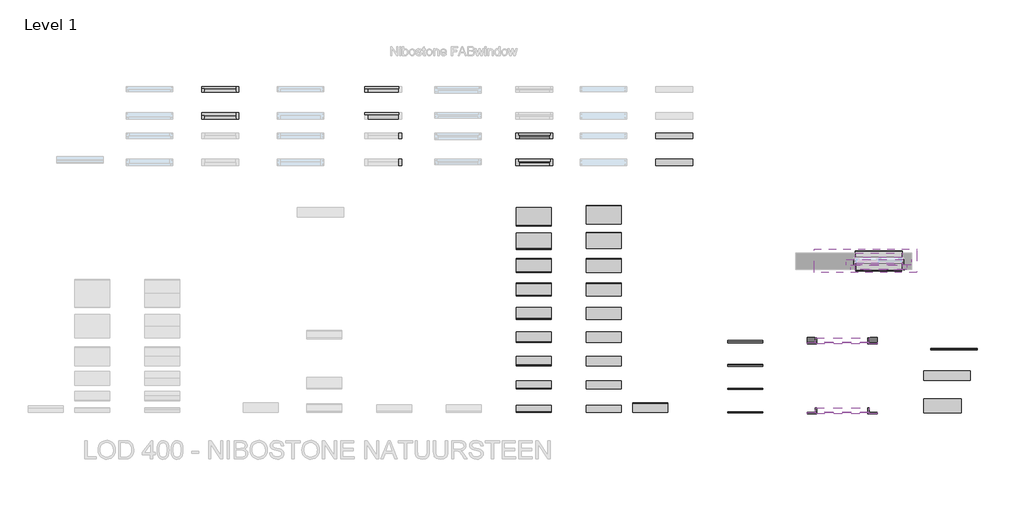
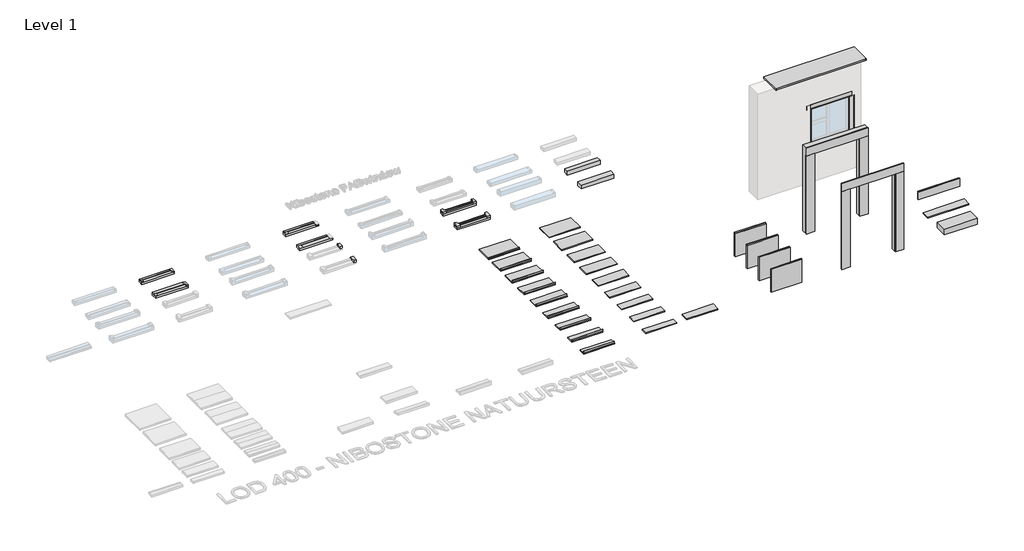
# One storey, part 3 of 4: 70 proxies.
"""IFC4 building model written with IfcOpenShell, lengths in millimetres."""

from ifc_helpers import new_model, si_unit, frame, origin, place, context, project, spatial, polyline, outline, extrude, faceted_brep, transform, mapped, element, save
from components import generic_models_4bea83f5, generic_models_c970b44f, generic_models_d3818979, generic_models_0f2e3a4e, generic_models_bb41b8d3, generic_models_ca184088, proxy_150_mm_c4bdd993, proxy_150_mm_ca923bcc, proxy_175_mm_28cd4d07, proxy_175_mm_1eb8ddfd, proxy_175_mm_35256b22, proxy_175_mm_2a68124a, proxy_200_mm_76491fd2, proxy_200_mm_34eb9fa0, proxy_225_mm_b38ed08b, proxy_225_mm_9ad4d809, proxy_250_mm_6b778dde, proxy_250_mm_bb0ab3bd, proxy_275_mm_4d599cdf, proxy_275_mm_176d9016, proxy_300_mm_cd6bf833, proxy_300_mm_4064e9de, proxy_350_mm_8b86544a, proxy_350_mm_dca82a35, proxy_400_mm_2aad5f86, proxy_400_mm_b8799641, proxy_500_mm_7bc9ffac, boven_94df7e55, links_18fe3aea, rechts_cb2a7235, std_9d51e7c5, std_7226f1d9, std_2bb5f184, std_e55cd7ee, std_7f9111ec, std_fba14e34, std_465226a6, std_f1861b5c, std_f690763c, std_e08fb664, std_f5cab2c8, std_3d7576f2, std_c930b66d

model = new_model("IFC4")

# Units and contexts
model_context = context("Model", 3, world=origin())
ifc_project = project(units=[si_unit("LENGTHUNIT", "METRE", prefix="MILLI")], contexts=[model_context])

# Site, building, storey
site = spatial("IfcSite", under=ifc_project)
building = spatial("IfcBuilding", under=site)
storey = spatial("IfcBuildingStorey", under=building, Name="Level 1", Elevation=0.0)

# Proxies
placement = place(None, origin())
element("IfcBuildingElementProxy", 1, Name="Nibostone : BLOK-114-100", ObjectType="Nibostone : BLOK-114-100", at=placement, inside=storey, context=model_context, shape_type="SweptSolid", body=[
    extrude(outline(polyline([(19500.0, 15886.0), (19500.0, 16000.0), (20293.7366492, 16000.0), (20293.7366492, 15886.0), (19500.0, 15886.0)])), frame((0.0, 0.0, -26.0), z_axis=(0.0, 0.0, 1.0), x_axis=(1.0, 0.0, 0.0)), (0.0, 0.0, 1.0), 100.0),
])
element("IfcBuildingElementProxy", 2, Name="Nibostone : BLOK-139-100", ObjectType="Nibostone : BLOK-139-100", at=placement, inside=storey, context=model_context, shape_type="SweptSolid", body=[
    extrude(outline(polyline([(19500.0, 15301.0), (19500.0, 15440.0), (20293.7366492, 15440.0), (20293.7366492, 15301.0), (19500.0, 15301.0)])), frame((0.0, 0.0, -26.0), z_axis=(0.0, 0.0, 1.0), x_axis=(1.0, 0.0, 0.0)), (0.0, 0.0, 1.0), 100.0),
])
generic_models_shape = generic_models_4bea83f5(model_context)
element("IfcBuildingElementProxy", 3, Name="400_35_NS_natuursteenkader_constructief : 400_35_NS_natuursteenkader_constructief", ObjectType="400_35_NS_natuursteenkader_constructief : 400_35_NS_natuursteenkader_constructief", at=placement, inside=storey, context=model_context, shape_type="MappedRepresentation", body=[
    mapped(generic_models_shape, transform((23500.0, 11500.0, 0.0), x_axis=(1.0, 0.0, 0.0), y_axis=(0.0, 1.0, 0.0), z_axis=(0.0, 0.0, 1.0))),
])
generic_models_2_shape = generic_models_c970b44f(model_context)
element("IfcBuildingElementProxy", 4, Name="400_24_NS_bloktrede : bloktrede", ObjectType="400_24_NS_bloktrede : bloktrede", at=placement, inside=storey, context=model_context, shape_type="MappedRepresentation", body=[
    mapped(generic_models_2_shape, transform((25250.0, 9991.3026751, 0.0), x_axis=(1.0, 0.0, 0.0), y_axis=(0.0, 1.0, 0.0), z_axis=(0.0, 0.0, 1.0))),
])
generic_models_3_shape = generic_models_d3818979(model_context)
element("IfcBuildingElementProxy", 5, Name="400_35_NS_gevelplint : 20 mm dik", ObjectType="400_35_NS_gevelplint : 20 mm dik", at=placement, inside=storey, context=model_context, shape_type="MappedRepresentation", body=[
    mapped(generic_models_3_shape, transform((21415.474413, 9991.3026751, 0.0), x_axis=(1.0, 0.0, 0.0), y_axis=(0.0, 1.0, 0.0), z_axis=(0.0, 0.0, 1.0))),
])
generic_models_4_shape = generic_models_0f2e3a4e(model_context)
element("IfcBuildingElementProxy", 6, Name="400_35_NS_gevelplint : 30 mm dik", ObjectType="400_35_NS_gevelplint : 30 mm dik", at=placement, inside=storey, context=model_context, shape_type="MappedRepresentation", body=[
    mapped(generic_models_4_shape, transform((21415.474413, 10491.3026751, 0.0), x_axis=(1.0, 0.0, 0.0), y_axis=(0.0, 1.0, 0.0), z_axis=(0.0, 0.0, 1.0))),
])
generic_models_5_shape = generic_models_bb41b8d3(model_context)
element("IfcBuildingElementProxy", 7, Name="400_35_NS_gevelplint : 40 mm dik", ObjectType="400_35_NS_gevelplint : 40 mm dik", at=placement, inside=storey, context=model_context, shape_type="MappedRepresentation", body=[
    mapped(generic_models_5_shape, transform((21415.474413, 10991.3026751, 0.0), x_axis=(1.0, 0.0, 0.0), y_axis=(0.0, 1.0, 0.0), z_axis=(0.0, 0.0, 1.0))),
])
generic_models_6_shape = generic_models_ca184088(model_context)
element("IfcBuildingElementProxy", 8, Name="400_35_NS_gevelplint : 50 mm dik", ObjectType="400_35_NS_gevelplint : 50 mm dik", at=placement, inside=storey, context=model_context, shape_type="MappedRepresentation", body=[
    mapped(generic_models_6_shape, transform((21415.474413, 11491.3026751, 0.0), x_axis=(1.0, 0.0, 0.0), y_axis=(0.0, 1.0, 0.0), z_axis=(0.0, 0.0, 1.0))),
])
proxy_150_mm_shape = proxy_150_mm_c4bdd993(model_context)
element("IfcBuildingElementProxy", 9, Name="400_35_NS_vensterbank : 150 mm", ObjectType="400_35_NS_vensterbank : 150 mm", at=placement, inside=storey, context=model_context, shape_type="MappedRepresentation", body=[
    mapped(proxy_150_mm_shape, transform((18378.8137943, 10001.8708366, 0.0), x_axis=(1.0, 0.0, 0.0), y_axis=(0.0, 1.0, 0.0), z_axis=(0.0, 0.0, 1.0))),
])
proxy_150_mm_2_shape = proxy_150_mm_ca923bcc(model_context)
element("IfcBuildingElementProxy", 10, Name="400_35_NS_raamdorpel_kunststof_klik : 150 mm", ObjectType="400_35_NS_raamdorpel_kunststof_klik : 150 mm", at=placement, inside=storey, context=model_context, shape_type="MappedRepresentation", body=[
    mapped(proxy_150_mm_2_shape, transform((16878.8137943, 10001.8708366, 0.0), x_axis=(1.0, 0.0, 0.0), y_axis=(0.0, 1.0, 0.0), z_axis=(0.0, 0.0, 1.0))),
])
proxy_175_mm_shape = proxy_175_mm_28cd4d07(model_context)
element("IfcBuildingElementProxy", 11, Name="400_35_NS_raamdorpel_natuursteen_klik : 175 mm", ObjectType="400_35_NS_raamdorpel_natuursteen_klik : 175 mm", at=placement, inside=storey, context=model_context, shape_type="MappedRepresentation", body=[
    mapped(proxy_175_mm_shape, transform((24281.0611281, 13292.3586374, 846.8050157), x_axis=(1.0, 0.0, 0.0), y_axis=(0.0, 1.0, 0.0), z_axis=(0.0, 0.0, 1.0))),
])
proxy_175_mm_2_shape = proxy_175_mm_1eb8ddfd(model_context)
element("IfcBuildingElementProxy", 12, Name="400_35_NS_vensterbank : 175 mm", ObjectType="400_35_NS_vensterbank : 175 mm", at=placement, inside=storey, context=model_context, shape_type="MappedRepresentation", body=[
    mapped(proxy_175_mm_2_shape, transform((18378.8137943, 10501.8708366, 0.0), x_axis=(1.0, 0.0, 0.0), y_axis=(0.0, 1.0, 0.0), z_axis=(0.0, 0.0, 1.0))),
])
proxy_175_mm_3_shape = proxy_175_mm_35256b22(model_context)
element("IfcBuildingElementProxy", 13, Name="400_35_NS_vensterbank : 175 mm", ObjectType="400_35_NS_vensterbank : 175 mm", at=placement, inside=storey, context=model_context, shape_type="MappedRepresentation", body=[
    mapped(proxy_175_mm_3_shape, transform((24281.0611281, 13217.3586374, 886.8050157), x_axis=(-1.0, 0.0, 0.0), y_axis=(0.0, -1.0, 0.0), z_axis=(0.0, 0.0, 1.0))),
])
proxy_175_mm_4_shape = proxy_175_mm_2a68124a(model_context)
element("IfcBuildingElementProxy", 14, Name="400_35_NS_raamdorpel_kunststof_klik : 175 mm", ObjectType="400_35_NS_raamdorpel_kunststof_klik : 175 mm", at=placement, inside=storey, context=model_context, shape_type="MappedRepresentation", body=[
    mapped(proxy_175_mm_4_shape, transform((16878.8137943, 10501.8708366, 0.0), x_axis=(1.0, 0.0, 0.0), y_axis=(0.0, 1.0, 0.0), z_axis=(0.0, 0.0, 1.0))),
])
proxy_200_mm_shape = proxy_200_mm_76491fd2(model_context)
element("IfcBuildingElementProxy", 15, Name="400_35_NS_vensterbank : 200 mm", ObjectType="400_35_NS_vensterbank : 200 mm", at=placement, inside=storey, context=model_context, shape_type="MappedRepresentation", body=[
    mapped(proxy_200_mm_shape, transform((18378.8137943, 11001.8708366, 0.0), x_axis=(1.0, 0.0, 0.0), y_axis=(0.0, 1.0, 0.0), z_axis=(0.0, 0.0, 1.0))),
])
proxy_200_mm_2_shape = proxy_200_mm_34eb9fa0(model_context)
element("IfcBuildingElementProxy", 16, Name="400_35_NS_raamdorpel_kunststof_klik : 200 mm", ObjectType="400_35_NS_raamdorpel_kunststof_klik : 200 mm", at=placement, inside=storey, context=model_context, shape_type="MappedRepresentation", body=[
    mapped(proxy_200_mm_2_shape, transform((16878.8137943, 11001.8708366, 0.0), x_axis=(1.0, 0.0, 0.0), y_axis=(0.0, 1.0, 0.0), z_axis=(0.0, 0.0, 1.0))),
])
proxy_225_mm_shape = proxy_225_mm_b38ed08b(model_context)
element("IfcBuildingElementProxy", 17, Name="400_35_NS_vensterbank : 225 mm", ObjectType="400_35_NS_vensterbank : 225 mm", at=placement, inside=storey, context=model_context, shape_type="MappedRepresentation", body=[
    mapped(proxy_225_mm_shape, transform((18378.8137943, 11501.8708366, 0.0), x_axis=(1.0, 0.0, 0.0), y_axis=(0.0, 1.0, 0.0), z_axis=(0.0, 0.0, 1.0))),
])
proxy_225_mm_2_shape = proxy_225_mm_9ad4d809(model_context)
element("IfcBuildingElementProxy", 18, Name="400_35_NS_raamdorpel_kunststof_klik : 225 mm", ObjectType="400_35_NS_raamdorpel_kunststof_klik : 225 mm", at=placement, inside=storey, context=model_context, shape_type="MappedRepresentation", body=[
    mapped(proxy_225_mm_2_shape, transform((16878.8137943, 11501.8708366, 0.0), x_axis=(1.0, 0.0, 0.0), y_axis=(0.0, 1.0, 0.0), z_axis=(0.0, 0.0, 1.0))),
])
proxy_250_mm_shape = proxy_250_mm_6b778dde(model_context)
element("IfcBuildingElementProxy", 19, Name="400_35_NS_vensterbank : 250 mm", ObjectType="400_35_NS_vensterbank : 250 mm", at=placement, inside=storey, context=model_context, shape_type="MappedRepresentation", body=[
    mapped(proxy_250_mm_shape, transform((18378.8137943, 12001.8708366, 0.0), x_axis=(1.0, 0.0, 0.0), y_axis=(0.0, 1.0, 0.0), z_axis=(0.0, 0.0, 1.0))),
])
proxy_250_mm_2_shape = proxy_250_mm_bb0ab3bd(model_context)
element("IfcBuildingElementProxy", 20, Name="400_35_NS_raamdorpel_kunststof_klik : 250 mm", ObjectType="400_35_NS_raamdorpel_kunststof_klik : 250 mm", at=placement, inside=storey, context=model_context, shape_type="MappedRepresentation", body=[
    mapped(proxy_250_mm_2_shape, transform((16878.8137943, 12001.8708366, 0.0), x_axis=(1.0, 0.0, 0.0), y_axis=(0.0, 1.0, 0.0), z_axis=(0.0, 0.0, 1.0))),
])
proxy_275_mm_shape = proxy_275_mm_4d599cdf(model_context)
element("IfcBuildingElementProxy", 21, Name="400_35_NS_vensterbank : 275 mm", ObjectType="400_35_NS_vensterbank : 275 mm", at=placement, inside=storey, context=model_context, shape_type="MappedRepresentation", body=[
    mapped(proxy_275_mm_shape, transform((18378.8137943, 12501.8708366, 0.0), x_axis=(1.0, 0.0, 0.0), y_axis=(0.0, 1.0, 0.0), z_axis=(0.0, 0.0, 1.0))),
])
proxy_275_mm_2_shape = proxy_275_mm_176d9016(model_context)
element("IfcBuildingElementProxy", 22, Name="400_35_NS_raamdorpel_kunststof_klik : 275 mm", ObjectType="400_35_NS_raamdorpel_kunststof_klik : 275 mm", at=placement, inside=storey, context=model_context, shape_type="MappedRepresentation", body=[
    mapped(proxy_275_mm_2_shape, transform((16878.8137943, 12501.8708366, 0.0), x_axis=(1.0, 0.0, 0.0), y_axis=(0.0, 1.0, 0.0), z_axis=(0.0, 0.0, 1.0))),
])
proxy_300_mm_shape = proxy_300_mm_cd6bf833(model_context)
element("IfcBuildingElementProxy", 23, Name="400_35_NS_vensterbank : 300 mm", ObjectType="400_35_NS_vensterbank : 300 mm", at=placement, inside=storey, context=model_context, shape_type="MappedRepresentation", body=[
    mapped(proxy_300_mm_shape, transform((18378.8137943, 13001.8708366, 0.0), x_axis=(1.0, 0.0, 0.0), y_axis=(0.0, 1.0, 0.0), z_axis=(0.0, 0.0, 1.0))),
])
proxy_300_mm_2_shape = proxy_300_mm_4064e9de(model_context)
element("IfcBuildingElementProxy", 24, Name="400_35_NS_raamdorpel_kunststof_klik : 300 mm", ObjectType="400_35_NS_raamdorpel_kunststof_klik : 300 mm", at=placement, inside=storey, context=model_context, shape_type="MappedRepresentation", body=[
    mapped(proxy_300_mm_2_shape, transform((16878.8137943, 13001.8708366, 0.0), x_axis=(1.0, 0.0, 0.0), y_axis=(0.0, 1.0, 0.0), z_axis=(0.0, 0.0, 1.0))),
])
proxy_350_mm_shape = proxy_350_mm_8b86544a(model_context)
element("IfcBuildingElementProxy", 25, Name="400_35_NS_vensterbank : 350 mm", ObjectType="400_35_NS_vensterbank : 350 mm", at=placement, inside=storey, context=model_context, shape_type="MappedRepresentation", body=[
    mapped(proxy_350_mm_shape, transform((18378.8137943, 13518.4409872, 0.0), x_axis=(1.0, 0.0, 0.0), y_axis=(0.0, 1.0, 0.0), z_axis=(0.0, 0.0, 1.0))),
])
proxy_350_mm_2_shape = proxy_350_mm_dca82a35(model_context)
element("IfcBuildingElementProxy", 26, Name="400_35_NS_raamdorpel_kunststof_klik : 350 mm", ObjectType="400_35_NS_raamdorpel_kunststof_klik : 350 mm", at=placement, inside=storey, context=model_context, shape_type="MappedRepresentation", body=[
    mapped(proxy_350_mm_2_shape, transform((16878.8137943, 13501.8708366, 0.0), x_axis=(1.0, 0.0, 0.0), y_axis=(0.0, 1.0, 0.0), z_axis=(0.0, 0.0, 1.0))),
])
proxy_400_mm_shape = proxy_400_mm_2aad5f86(model_context)
element("IfcBuildingElementProxy", 27, Name="400_35_NS_vensterbank : 400 mm", ObjectType="400_35_NS_vensterbank : 400 mm", at=placement, inside=storey, context=model_context, shape_type="MappedRepresentation", body=[
    mapped(proxy_400_mm_shape, transform((18378.8137943, 14048.8647736, 0.0), x_axis=(1.0, 0.0, 0.0), y_axis=(0.0, 1.0, 0.0), z_axis=(0.0, 0.0, 1.0))),
])
proxy_400_mm_2_shape = proxy_400_mm_b8799641(model_context)
element("IfcBuildingElementProxy", 28, Name="400_35_NS_raamdorpel_kunststof_klik : 400 mm", ObjectType="400_35_NS_raamdorpel_kunststof_klik : 400 mm", at=placement, inside=storey, context=model_context, shape_type="MappedRepresentation", body=[
    mapped(proxy_400_mm_2_shape, transform((16878.8137943, 14001.8708366, 0.0), x_axis=(1.0, 0.0, 0.0), y_axis=(0.0, 1.0, 0.0), z_axis=(0.0, 0.0, 1.0))),
])
proxy_500_mm_shape = proxy_500_mm_7bc9ffac(model_context)
element("IfcBuildingElementProxy", 29, Name="400_35_NS_afdekker_éénzijdig_afwaterend : 500 mm", ObjectType="400_35_NS_afdekker_éénzijdig_afwaterend : 500 mm", at=placement, inside=storey, context=model_context, shape_type="MappedRepresentation", body=[
    mapped(proxy_500_mm_shape, transform((23994.5083422, 13007.3586374, 2707.1148791), x_axis=(1.0, 0.0, 0.0), y_axis=(0.0, 1.0, 0.0), z_axis=(0.0, 0.0, 1.0))),
])
element("IfcBuildingElementProxy", 30, Name="Nibostone : BI-51-114", ObjectType="Nibostone : BI-51-114", at=placement, inside=storey, context=model_context, shape_type="Brep", body=[
    faceted_brep([(13250.0, 16999.5777074, -26.0), (13250.0, 16999.5777074, 44.0), (13976.7366492, 16999.5777074, 44.0), (13976.7366492, 16999.5777074, 8.9806081), (14043.7366492, 16999.5777074, 8.9806081), (14043.7366492, 16999.5777074, -26.0), (13250.0, 16958.5777074, 44.0), (13250.0, 16958.5777074, 27.6985751), (13300.0, 16958.5777074, 27.6985751), (13976.7366492, 16958.5777074, 27.6985751), (13976.7366492, 16958.5777074, 44.0), (13300.0, 16958.5777074, 44.0), (14043.7366492, 16885.5777074, -26.0), (13250.0, 16885.5777074, -26.0), (14043.7366492, 16964.4229826, 8.9806081), (14043.7366492, 16885.5777074, 8.9806081), (13976.7366492, 16948.5777074, 8.9806081), (13976.7366492, 16885.5777074, 8.9806081), (13976.7366492, 16964.5777074, 8.9806081), (13976.7366492, 16958.5777074, 8.9806081), (13993.7366492, 16958.5777074, 8.9806081), (13993.7366492, 16948.5777074, 8.9806081), (13993.7366492, 16948.5777074, 27.2619657), (13976.7366492, 16948.5777074, 27.2619657), (13993.7366492, 16958.5777074, 27.6985751), (13976.7366492, 16885.5777074, 24.5113263), (13317.0, 16885.5777074, 24.5113263), (13250.0, 16885.5777074, 24.5113263)], [[[0, 1, 2, 3, 4, 5]], [[6, 7, 8, 9, 10, 11]], [[1, 6, 11, 10, 2]], [[0, 5, 12, 13]], [[12, 5, 4, 14, 15]], [[16, 17, 15, 14, 18, 19, 20, 21]], [[16, 21, 22, 23]], [[20, 19, 9, 24]], [[13, 12, 15, 17, 25, 26, 27]], [[1, 0, 13, 27, 7, 6]], [[7, 27, 26, 25, 23, 22, 24, 9, 8]], [[18, 14, 4, 3]], [[17, 16, 23, 25]], [[21, 20, 24, 22]], [[19, 18, 3, 2, 10, 9]]]),
])
element("IfcBuildingElementProxy", 31, Name="Nibostone : BI-57-139", ObjectType="Nibostone : BI-57-139", at=placement, inside=storey, context=model_context, shape_type="Brep", body=[
    faceted_brep([(13250.0, 16440.0, -26.0), (13250.0, 16440.0, 44.0), (13976.7366492, 16440.0, 44.0), (13976.7366492, 16440.0, 8.9806081), (14043.7366492, 16440.0, 8.9806081), (14043.7366492, 16440.0, -26.0), (13250.0, 16393.0, 44.0), (13250.0, 16393.0, 27.4366094), (13300.0, 16393.0, 27.4366094), (13976.7366492, 16393.0, 27.4366094), (13976.7366492, 16393.0, 44.0), (13300.0, 16393.0, 44.0), (14043.7366492, 16301.0, -26.0), (13250.0, 16301.0, -26.0), (14043.7366492, 16404.8452752, 8.9806081), (14043.7366492, 16301.0, 8.9806081), (13976.7366492, 16383.0, 8.9806081), (13976.7366492, 16301.0, 8.9806081), (13976.7366492, 16405.0, 8.9806081), (13976.7366492, 16393.0, 8.9806081), (13993.7366492, 16393.0, 8.9806081), (13993.7366492, 16383.0, 8.9806081), (13976.7366492, 16301.0, 23.4198027), (13317.0, 16301.0, 23.4198027), (13250.0, 16301.0, 23.4198027), (13976.7366492, 16383.0, 27.0), (13993.7366492, 16383.0, 27.0), (13993.7366492, 16393.0, 27.4366094)], [[[0, 1, 2, 3, 4, 5]], [[6, 7, 8, 9, 10, 11]], [[1, 6, 11, 10, 2]], [[0, 5, 12, 13]], [[12, 5, 4, 14, 15]], [[16, 17, 15, 14, 18, 19, 20, 21]], [[13, 12, 15, 17, 22, 23, 24]], [[1, 0, 13, 24, 7, 6]], [[7, 24, 23, 22, 25, 26, 27, 9, 8]], [[18, 14, 4, 3]], [[21, 20, 27, 26]], [[16, 21, 26, 25]], [[20, 19, 9, 27]], [[17, 16, 25, 22]], [[19, 18, 3, 2, 10, 9]]]),
])
element("IfcBuildingElementProxy", 32, Name="Nibostone : BU-67-114", ObjectType="Nibostone : BU-67-114", at=placement, inside=storey, context=model_context, shape_type="Brep", body=[
    faceted_brep([(9750.0, 16999.5777074, -26.0), (9750.0, 16999.5777074, 44.0), (10476.7366492, 16999.5777074, 44.0), (10476.7366492, 16999.5777074, 26.0), (10543.7366492, 16999.5777074, 26.0), (10543.7366492, 16999.5777074, -26.0), (9750.0, 16952.5777074, 44.0), (9750.0, 16952.5777074, 27.4366094), (9800.0, 16952.5777074, 27.4366094), (10476.7366492, 16952.5777074, 27.4366094), (10476.7366492, 16952.5777074, 44.0), (9800.0, 16952.5777074, 44.0), (9750.0, 16885.5777074, 24.5113263), (9750.0, 16885.5777074, -26.0), (10543.7366492, 16885.5777074, -26.0), (10543.7366492, 16885.5777074, 8.9806081), (10502.7366492, 16885.5777074, 8.9806081), (10502.7366492, 16885.5777074, 24.5113263), (10543.7366492, 16964.4229826, 26.0), (10543.7366492, 16964.4229826, 8.9806081), (10502.7366492, 16902.5742907, 25.2534131), (10493.7366492, 16902.5742907, 25.2534131), (10493.7366492, 16952.5777074, 27.4366094), (10502.7366492, 16902.5742907, 8.9806081), (10476.7366492, 16964.5777074, 8.9806081), (10476.7366492, 16952.5742907, 8.9806081), (10493.7366492, 16952.5742907, 8.9806081), (10493.7366492, 16902.5742907, 8.9806081), (10476.7366492, 16964.5777074, 26.0)], [[[0, 1, 2, 3, 4, 5]], [[6, 7, 8, 9, 10, 11]], [[1, 6, 11, 10, 2]], [[12, 13, 14, 15, 16, 17]], [[0, 5, 14, 13]], [[14, 5, 4, 18, 19, 15]], [[1, 0, 13, 12, 7, 6]], [[7, 12, 17, 20, 21, 22, 9, 8]], [[23, 16, 15, 19, 24, 25, 26, 27]], [[24, 19, 18, 28]], [[28, 18, 4, 3]], [[25, 24, 28, 3, 2, 10, 9]], [[16, 23, 20, 17]], [[23, 27, 21, 20]], [[27, 26, 22, 21]], [[26, 25, 9, 22]]]),
])
element("IfcBuildingElementProxy", 33, Name="Nibostone : BU-72-139", ObjectType="Nibostone : BU-72-139", at=placement, inside=storey, context=model_context, shape_type="Brep", body=[
    faceted_brep([(9750.0, 16440.0, -26.0), (9750.0, 16440.0, 44.0), (10476.7366492, 16440.0, 44.0), (10476.7366492, 16440.0, 26.0), (10543.7366492, 16440.0, 26.0), (10543.7366492, 16440.0, -26.0), (9750.0, 16373.0, 44.0), (9750.0, 16373.0, 26.5633906), (9800.0, 16373.0, 26.5633906), (10476.7366492, 16373.0, 26.5633906), (10476.7366492, 16373.0, 44.0), (9800.0, 16373.0, 44.0), (10543.7366492, 16301.0, -26.0), (9750.0, 16301.0, -26.0), (10543.7366492, 16404.8452752, 26.0), (10543.7366492, 16404.8452752, 8.9806081), (10543.7366492, 16301.0, 8.9806081), (10502.7366492, 16318.0, 8.9806081), (10502.7366492, 16301.0, 8.9806081), (10476.7366492, 16405.0, 8.9806081), (10476.7366492, 16372.9965833, 8.9806081), (10493.7366492, 16372.9965833, 8.9806081), (10493.7366492, 16318.0, 8.9806081), (10502.7366492, 16301.0, 23.4198027), (9791.0, 16301.0, 23.4198027), (9750.0, 16301.0, 23.4198027), (10502.7366492, 16318.0, 24.1620387), (10493.7366492, 16318.0, 24.1620387), (10493.7366492, 16373.0, 26.5633906), (10476.7366492, 16405.0, 26.0)], [[[0, 1, 2, 3, 4, 5]], [[6, 7, 8, 9, 10, 11]], [[1, 6, 11, 10, 2]], [[0, 5, 12, 13]], [[12, 5, 4, 14, 15, 16]], [[17, 18, 16, 15, 19, 20, 21, 22]], [[13, 12, 16, 18, 23, 24, 25]], [[1, 0, 13, 25, 7, 6]], [[7, 25, 24, 23, 26, 27, 28, 9, 8]], [[19, 15, 14, 29]], [[3, 29, 14, 4]], [[17, 22, 27, 26]], [[20, 19, 29, 3, 2, 10, 9]], [[18, 17, 26, 23]], [[22, 21, 28, 27]], [[21, 20, 9, 28]]]),
])
element("IfcBuildingElementProxy", 34, Name="Nibostone : DA-51-114 VN", ObjectType="Nibostone : DA-51-114 VN", at=placement, inside=storey, context=model_context, shape_type="Brep", body=[
    faceted_brep([(16493.7645592, 16000.0, -26.0), (16493.7645592, 16000.0, 26.5633906), (17287.5012085, 16000.0, 26.5633906), (17287.5012085, 16000.0, -26.0), (16493.7645592, 15959.0, 26.5633906), (16543.7645592, 15959.0, 26.5633906), (17237.5012085, 15959.0, 26.5633906), (17287.5012085, 15959.0, 26.5633906), (16493.7645592, 15929.0, 26.3887468), (16493.7645592, 15886.0, 24.5113263), (16560.7645592, 15886.0, 24.5113263), (17220.5012085, 15886.0, 24.5113263), (17287.5012085, 15886.0, 24.5113263), (17287.5012085, 15929.0, 26.3887468), (17220.5012085, 15929.0, 26.3887468), (16560.7645592, 15929.0, 26.3887468), (16493.7645592, 15886.0, -26.0), (17287.5012085, 15886.0, -26.0), (17287.5012085, 15959.0, 21.5633906), (17287.5012085, 15949.0, 21.5633906), (17287.5012085, 15949.0, 44.0), (17287.5012085, 15929.0, 44.0), (16493.7645592, 15929.0, 44.0), (16493.7645592, 15949.0, 44.0), (16493.7645592, 15949.0, 21.5633906), (16493.7645592, 15959.0, 21.5633906), (16543.7645592, 15959.0, 21.5633906), (17237.5012085, 15959.0, 21.5633906), (17220.5012085, 15929.0, 44.0), (16560.7645592, 15929.0, 44.0), (17237.5012085, 15949.0, 44.0), (16543.7645592, 15949.0, 44.0), (17237.5012085, 15949.0, 21.5633906), (16543.7645592, 15949.0, 21.5633906)], [[[0, 1, 2, 3]], [[1, 4, 5, 6, 7, 2]], [[8, 9, 10, 11, 12, 13, 14, 15]], [[16, 0, 3, 17]], [[3, 2, 7, 18, 19, 20, 21, 13, 12, 17]], [[9, 16, 17, 12, 11, 10]], [[0, 16, 9, 8, 22, 23, 24, 25, 4, 1]], [[4, 25, 26, 27, 18, 7, 6, 5]], [[22, 8, 15, 14, 13, 21, 28, 29]], [[23, 22, 29, 28, 21, 20, 30, 31]], [[24, 23, 31, 30, 20, 19, 32, 33]], [[25, 24, 33, 32, 19, 18, 27, 26]]]),
])
element("IfcBuildingElementProxy", 35, Name="Nibostone : DA-57-139 VN", ObjectType="Nibostone : DA-57-139 VN", at=placement, inside=storey, context=model_context, shape_type="Brep", body=[
    faceted_brep([(16493.7645592, 15440.0, -26.0), (16493.7645592, 15440.0, 26.5633906), (17287.5012085, 15440.0, 26.5633906), (17287.5012085, 15440.0, -26.0), (16493.7645592, 15393.0, 26.5633906), (16543.7645592, 15393.0, 26.5633906), (17237.5012085, 15393.0, 26.5633906), (17287.5012085, 15393.0, 26.5633906), (16493.7645592, 15363.0, 26.1267811), (16493.7645592, 15301.0, 23.4198027), (16560.7645592, 15301.0, 23.4198027), (17220.5012085, 15301.0, 23.4198027), (17287.5012085, 15301.0, 23.4198027), (17287.5012085, 15363.0, 26.1267811), (17220.5012085, 15363.0, 26.1267811), (16560.7645592, 15363.0, 26.1267811), (16493.7645592, 15301.0, -26.0), (17287.5012085, 15301.0, -26.0), (17287.5012085, 15393.0, 21.5633906), (17287.5012085, 15383.0, 21.5633906), (17287.5012085, 15383.0, 44.0), (17287.5012085, 15363.0, 44.0), (16493.7645592, 15363.0, 44.0), (16493.7645592, 15383.0, 44.0), (16493.7645592, 15383.0, 21.5633906), (16493.7645592, 15393.0, 21.5633906), (16543.7645592, 15393.0, 21.5633906), (17237.5012085, 15393.0, 21.5633906), (17220.5012085, 15363.0, 44.0), (16560.7645592, 15363.0, 44.0), (17237.5012085, 15383.0, 44.0), (17220.5012085, 15383.0, 44.0), (16560.7645592, 15383.0, 44.0), (16543.7645592, 15383.0, 44.0), (17237.5012085, 15383.0, 21.5633906), (16543.7645592, 15383.0, 21.5633906)], [[[0, 1, 2, 3]], [[1, 4, 5, 6, 7, 2]], [[8, 9, 10, 11, 12, 13, 14, 15]], [[16, 0, 3, 17]], [[3, 2, 7, 18, 19, 20, 21, 13, 12, 17]], [[9, 16, 17, 12, 11, 10]], [[0, 16, 9, 8, 22, 23, 24, 25, 4, 1]], [[4, 25, 26, 27, 18, 7, 6, 5]], [[22, 8, 15, 14, 13, 21, 28, 29]], [[23, 22, 29, 28, 21, 20, 30, 31, 32, 33]], [[24, 23, 33, 32, 31, 30, 20, 19, 34, 35]], [[25, 24, 35, 34, 19, 18, 27, 26]]]),
])
boven_shape = boven_94df7e55(model_context)
element("IfcBuildingElementProxy", 36, Name="400_35_NS_betonstrook : boven", ObjectType="400_35_NS_betonstrook : boven", at=placement, inside=storey, context=model_context, shape_type="MappedRepresentation", body=[
    mapped(boven_shape, transform((23500.0, 10000.0, 2000.0), x_axis=(1.0, 0.0, 0.0), y_axis=(0.0, 0.0, 1.0), z_axis=(0.0, -1.0, 0.0))),
])
element("IfcBuildingElementProxy", 37, Name="400_35_NS_betonstrook : boven", ObjectType="400_35_NS_betonstrook : boven", at=placement, inside=storey, context=model_context, shape_type="MappedRepresentation", body=[
    mapped(boven_shape, transform((23500.0, 11500.0, 2000.0), x_axis=(1.0, 0.0, 0.0), y_axis=(0.0, 0.0, 1.0), z_axis=(0.0, -1.0, 0.0))),
])
links_shape = links_18fe3aea(model_context)
element("IfcBuildingElementProxy", 38, Name="400_35_NS_betonstrook : links", ObjectType="400_35_NS_betonstrook : links", at=placement, inside=storey, context=model_context, shape_type="MappedRepresentation", body=[
    mapped(links_shape, transform((22950.0, 10000.0, 1000.0), x_axis=(0.0, 0.0, 1.0), y_axis=(-1.0, 0.0, 0.0), z_axis=(0.0, -1.0, 0.0))),
])
element("IfcBuildingElementProxy", 39, Name="400_35_NS_betonstrook : links", ObjectType="400_35_NS_betonstrook : links", at=placement, inside=storey, context=model_context, shape_type="MappedRepresentation", body=[
    mapped(links_shape, transform((22950.0, 11500.0, 1000.0), x_axis=(0.0, 0.0, 1.0), y_axis=(-1.0, 0.0, 0.0), z_axis=(0.0, -1.0, 0.0))),
])
rechts_shape = rechts_cb2a7235(model_context)
element("IfcBuildingElementProxy", 40, Name="400_35_NS_betonstrook : rechts", ObjectType="400_35_NS_betonstrook : rechts", at=placement, inside=storey, context=model_context, shape_type="MappedRepresentation", body=[
    mapped(rechts_shape, transform((24050.0, 10000.0, 1000.0), x_axis=(0.0, 0.0, 1.0), y_axis=(-1.0, 0.0, 0.0), z_axis=(0.0, -1.0, 0.0))),
])
element("IfcBuildingElementProxy", 41, Name="400_35_NS_betonstrook : rechts", ObjectType="400_35_NS_betonstrook : rechts", at=placement, inside=storey, context=model_context, shape_type="MappedRepresentation", body=[
    mapped(rechts_shape, transform((24050.0, 11500.0, 1000.0), x_axis=(0.0, 0.0, 1.0), y_axis=(-1.0, 0.0, 0.0), z_axis=(0.0, -1.0, 0.0))),
])
element("IfcBuildingElementProxy", 42, Name="BU-NEUT-67-114 : std", ObjectType="BU-NEUT-67-114 : std", at=placement, inside=storey, context=model_context, shape_type="Brep", body=[
    faceted_brep([(10543.7366492, 16964.4229826, 8.9806081), (10543.7366492, 16885.5742907, 8.9806081), (10502.7366492, 16885.5742907, 8.9806081), (10502.7366492, 16902.5742907, 8.9806081), (10493.7366492, 16902.5742907, 8.9806081), (10493.7366492, 16952.5742907, 8.9806081), (10476.7366492, 16952.5742907, 8.9806081), (10476.7366492, 16964.5777074, 8.9806081), (10476.7366492, 16964.5777074, 26.0), (10543.7366492, 16964.4229826, 26.0), (10476.7366492, 16999.5742907, 26.0), (10543.7366492, 16999.5742907, 26.0), (10476.7366492, 16999.5742907, 44.0), (10543.7366492, 16999.5742907, 44.0), (10476.7366492, 16952.5742907, 44.0), (10493.7366492, 16952.5742907, 44.0), (10493.7366492, 16902.5742907, 44.0), (10502.7366492, 16902.5742907, 44.0), (10502.7366492, 16885.5742907, 44.0), (10543.7366492, 16885.5742907, 44.0), (10476.7366492, 16952.5742907, 27.4366094), (10502.7366492, 16902.5742907, 25.2534131), (10493.7366492, 16902.5742907, 25.2534131), (10493.7366492, 16952.5742907, 27.4366094)], [[[0, 1, 2, 3, 4, 5, 6, 7]], [[0, 7, 8, 9]], [[9, 8, 10, 11]], [[11, 10, 12, 13]], [[13, 12, 14, 15, 16, 17, 18, 19]], [[1, 19, 18, 2]], [[8, 7, 6, 20, 14, 12, 10]], [[1, 0, 9, 11, 13, 19]], [[17, 21, 3, 2, 18]], [[3, 21, 17, 16, 22, 4]], [[4, 22, 16, 15, 23, 5]], [[5, 23, 15, 14, 20, 6]]]),
])
element("IfcBuildingElementProxy", 43, Name="BU-NEUT-67-114 : std", ObjectType="BU-NEUT-67-114 : std", at=placement, inside=storey, context=model_context, shape_type="Brep", body=[
    faceted_brep([(9750.0, 16885.5742907, 44.0), (9791.0, 16885.5742907, 44.0), (9791.0, 16902.5742907, 44.0), (9800.0, 16902.5742907, 44.0), (9800.0, 16952.5742907, 44.0), (9750.0, 16952.5777074, 44.0), (9750.0, 16885.5742907, 24.5111771), (9791.0, 16885.5742907, 24.5111771), (9750.0, 16952.5777074, 27.4366094), (9791.0, 16902.5742907, 25.2534131), (9800.0, 16902.5742907, 25.2534131), (9800.0, 16952.5742907, 27.4364603)], [[[0, 1, 2, 3, 4, 5]], [[1, 0, 6, 7]], [[0, 5, 8, 6]], [[2, 1, 7, 9]], [[3, 2, 9, 10]], [[4, 3, 10, 11]], [[11, 8, 5, 4]], [[8, 11, 10, 9, 7, 6]]]),
])
element("IfcBuildingElementProxy", 44, Name="BU-NEUT-72-139 : std", ObjectType="BU-NEUT-72-139 : std", at=placement, inside=storey, context=model_context, shape_type="Brep", body=[
    faceted_brep([(10543.7366492, 16404.8452752, 8.9806081), (10543.7366492, 16301.0, 8.9806081), (10502.7366492, 16301.0, 8.9806081), (10502.7366492, 16318.0, 8.9806081), (10493.7366492, 16318.0, 8.9806081), (10493.7366492, 16372.9965833, 8.9806081), (10476.7366492, 16372.9965833, 8.9806081), (10476.7366492, 16405.0, 8.9806081), (10476.7366492, 16405.0, 26.0), (10476.7366492, 16372.9965833, 26.5633906), (10476.7366492, 16372.9965833, 44.0), (10476.7366492, 16439.9965833, 44.0), (10476.7366492, 16439.9965833, 26.0), (10543.7366492, 16404.8452752, 26.0), (10543.7366492, 16439.9965833, 26.0), (10543.7366492, 16439.9965833, 44.0), (10493.7366492, 16372.9965833, 44.0), (10493.7366492, 16318.0, 44.0), (10502.7366492, 16318.0, 44.0), (10502.7366492, 16301.0, 44.0), (10543.7366492, 16301.0, 44.0), (10502.7366492, 16318.0, 24.1620387), (10493.7366492, 16318.0, 24.1620387), (10502.7366492, 16301.0, 23.4198027), (10493.7366492, 16372.9965833, 26.5633906)], [[[0, 1, 2, 3, 4, 5, 6, 7]], [[8, 7, 6, 9, 10, 11, 12]], [[0, 7, 8, 13]], [[13, 8, 12, 14]], [[14, 12, 11, 15]], [[15, 11, 10, 16, 17, 18, 19, 20]], [[1, 0, 13, 14, 15, 20]], [[3, 21, 18, 17, 22, 4]], [[1, 20, 19, 23, 2]], [[18, 21, 3, 2, 23, 19]], [[4, 22, 17, 16, 24, 5]], [[5, 24, 16, 10, 9, 6]]]),
])
element("IfcBuildingElementProxy", 45, Name="BU-NEUT-72-139 : std", ObjectType="BU-NEUT-72-139 : std", at=placement, inside=storey, context=model_context, shape_type="Brep", body=[
    faceted_brep([(9800.0, 16373.0, 26.5632414), (9750.0, 16373.0, 26.5633906), (9750.0, 16373.0, 44.0), (9800.0, 16373.0, 44.0), (9800.0, 16318.0, 44.0), (9750.0, 16301.0, 44.0), (9791.0, 16301.0, 44.0), (9791.0, 16318.0, 44.0), (9750.0, 16301.0, 23.4198027), (9791.0, 16318.0, 24.1620387), (9800.0, 16318.0, 24.1620387), (9791.0, 16301.0, 23.4198027)], [[[0, 1, 2, 3]], [[4, 3, 2, 5, 6, 7]], [[5, 2, 1, 8]], [[4, 7, 9, 10]], [[1, 0, 10, 9, 11, 8]], [[6, 5, 8, 11]], [[7, 6, 11, 9]], [[3, 4, 10, 0]]]),
])
element("IfcBuildingElementProxy", 46, Name="BI-NEUT-51-114 : std", ObjectType="BI-NEUT-51-114 : std", at=placement, inside=storey, context=model_context, shape_type="Brep", body=[
    faceted_brep([(13300.0, 16948.5777074, 44.0), (13317.0, 16948.5777074, 44.0), (13317.0, 16948.5777074, 27.2619657), (13300.0, 16948.5777074, 27.2619657), (13300.0, 16958.5777074, 27.6985751), (13250.0, 16958.5777074, 27.6985751), (13250.0, 16958.5777074, 44.0), (13300.0, 16958.5777074, 44.0), (13317.0, 16885.5777074, 24.5113263), (13250.0, 16885.5777074, 24.5113263), (13250.0, 16885.5777074, 44.0), (13317.0, 16885.5777074, 44.0)], [[[0, 1, 2, 3]], [[4, 5, 6, 7]], [[5, 4, 3, 2, 8, 9]], [[10, 11, 1, 0, 7, 6]], [[11, 10, 9, 8]], [[1, 11, 8, 2]], [[10, 6, 5, 9]], [[7, 0, 3, 4]]]),
])
element("IfcBuildingElementProxy", 47, Name="BI-VH-NEUT-51-114 : std", ObjectType="BI-VH-NEUT-51-114 : std", at=placement, inside=storey, context=model_context, shape_type="Brep", body=[
    faceted_brep([(14043.7366492, 15964.8452752, 8.9806081), (14043.7366492, 15886.0, 8.9806081), (13976.7366492, 15886.0, 8.9806081), (13976.7366492, 15949.0, 8.9806081), (13993.7366492, 15949.0, 8.9806081), (13993.7366492, 15959.0, 8.9806081), (13976.7366492, 15959.0, 8.9806081), (13976.7366492, 15965.0, 8.9806081), (13993.7366492, 15949.0, 74.0), (13993.7366492, 15949.0, 27.2619657), (13976.7366492, 15949.0, 27.2619657), (13976.7366492, 15949.0, 74.0), (13993.7366492, 15959.0, 27.6985751), (13993.7366492, 15959.0, 74.0), (13976.7366492, 15959.0, 74.0), (13976.7366492, 15959.0, 44.0), (13976.7366492, 15959.0, 27.6985751), (13976.7366492, 15999.9965833, 8.9806081), (14043.7366492, 15999.9965833, 8.9806081), (13976.7366492, 15999.9965833, 74.0), (14043.7366492, 15999.9965833, 74.0), (13976.7366492, 15886.0, 74.0), (14043.7366492, 15886.0, 74.0), (13976.7366492, 15886.0, 24.5113263)], [[[0, 1, 2, 3, 4, 5, 6, 7]], [[8, 9, 4, 3, 10, 11]], [[5, 12, 13, 14, 15, 16, 6]], [[0, 7, 17, 18]], [[18, 17, 19, 20]], [[20, 19, 14, 13, 8, 11, 21, 22]], [[2, 1, 22, 21, 23]], [[4, 9, 8, 13, 12, 5]], [[17, 7, 6, 16, 15, 14, 19]], [[2, 23, 21, 11, 10, 3]], [[1, 0, 18, 20, 22]]]),
])
element("IfcBuildingElementProxy", 48, Name="BI-VH-NEUT-57-139 : std", ObjectType="BI-VH-NEUT-57-139 : std", at=placement, inside=storey, context=model_context, shape_type="Brep", body=[
    faceted_brep([(14043.7366492, 15404.8452752, 8.9806081), (14043.7366492, 15301.0, 8.9806081), (13976.7366492, 15301.0, 8.9806081), (13976.7366492, 15383.0, 8.9806081), (13993.7366492, 15383.0, 8.9806081), (13993.7366492, 15393.0, 8.9806081), (13976.7366492, 15393.0, 8.9806081), (13976.7366492, 15405.0, 8.9806081), (13993.7366492, 15383.0, 74.0), (13993.7366492, 15383.0, 27.0), (13976.7366492, 15383.0, 27.0), (13976.7366492, 15383.0, 74.0), (13993.7366492, 15393.0, 27.4366094), (13993.7366492, 15393.0, 74.0), (13976.7366492, 15393.0, 74.0), (13976.7366492, 15393.0, 44.0), (13976.7366492, 15393.0, 27.4366094), (13976.7366492, 15439.9965833, 8.9806081), (14043.7366492, 15439.9965833, 8.9806081), (13976.7366492, 15439.9965833, 74.0), (14043.7366492, 15439.9965833, 74.0), (13976.7366492, 15301.0, 74.0), (14043.7366492, 15301.0, 74.0), (13976.7366492, 15301.0, 23.4198027)], [[[0, 1, 2, 3, 4, 5, 6, 7]], [[8, 9, 4, 3, 10, 11]], [[5, 12, 13, 14, 15, 16, 6]], [[0, 7, 17, 18]], [[18, 17, 19, 20]], [[20, 19, 14, 13, 8, 11, 21, 22]], [[2, 1, 22, 21, 23]], [[4, 9, 8, 13, 12, 5]], [[17, 7, 6, 16, 15, 14, 19]], [[2, 23, 21, 11, 10, 3]], [[1, 0, 18, 20, 22]]]),
])
element("IfcBuildingElementProxy", 49, Name="DA-VH-NEUT-51-114 : std", ObjectType="DA-VH-NEUT-51-114 : std", at=placement, inside=storey, context=model_context, shape_type="Brep", body=[
    faceted_brep([(17237.5012085, 15999.9965833, 74.0), (17287.5012085, 15999.9965833, 74.0), (17287.5012085, 15999.9965833, 26.5633906), (17237.5012085, 15999.9965833, 26.5633906), (17287.5012085, 15886.0, 74.0), (17220.5012085, 15886.0, 74.0), (17220.5012085, 15886.0, 24.5113263), (17287.5012085, 15886.0, 24.5113263), (17237.5012085, 15948.9965833, 74.0), (17220.5012085, 15948.9965833, 74.0), (17220.5012085, 15948.9965833, 44.0), (17220.5012085, 15929.0, 44.0), (17220.5012085, 15929.0, 26.3887468), (17287.5012085, 15929.0, 26.3887468), (17287.5012085, 15929.0, 44.0), (17287.5012085, 15949.0, 44.0), (17287.5012085, 15949.0, 21.5633906), (17287.5012085, 15959.0, 21.5633906), (17287.5012085, 15959.0, 26.5633906), (17237.5012085, 15959.0, 26.5633906), (17237.5012085, 15959.0, 21.5633906), (17237.5012085, 15948.9965833, 21.5633906), (17237.5012085, 15949.0, 44.0)], [[[0, 1, 2, 3]], [[4, 5, 6, 7]], [[1, 0, 8, 9, 5, 4]], [[5, 9, 10, 11, 12, 6]], [[1, 4, 7, 13, 14, 15, 16, 17, 18, 2]], [[8, 0, 3, 19, 20, 21, 22]], [[9, 8, 22, 10]], [[18, 19, 3, 2]], [[12, 13, 7, 6]], [[19, 18, 17, 20]], [[13, 12, 11, 14]], [[22, 15, 14, 11, 10]], [[15, 22, 21, 16]], [[16, 21, 20, 17]]]),
])
element("IfcBuildingElementProxy", 50, Name="DA-VH-NEUT-51-114 : std", ObjectType="DA-VH-NEUT-51-114 : std", at=placement, inside=storey, context=model_context, shape_type="Brep", body=[
    faceted_brep([(16493.7645592, 15999.9965833, 74.0), (16543.7645592, 15999.9965833, 74.0), (16543.7645592, 15999.9965833, 26.5633906), (16493.7645592, 15999.9965833, 26.5633906), (16543.7645592, 15959.0, 26.5633906), (16493.7645592, 15959.0, 26.5633906), (16493.7645592, 15929.0, 26.3887468), (16560.7645592, 15929.0, 26.3887468), (16560.7645592, 15886.0, 24.5113263), (16493.7645592, 15886.0, 24.5113263), (16560.7645592, 15886.0, 74.0), (16493.7645592, 15886.0, 74.0), (16543.7645592, 15959.0, 21.5633906), (16493.7645592, 15959.0, 21.5633906), (16493.7645592, 15929.0, 44.0), (16560.7645592, 15929.0, 44.0), (16493.7645592, 15949.0, 44.0), (16543.7645592, 15948.9965833, 44.0), (16560.7645592, 15948.9965833, 44.0), (16493.7645592, 15949.0, 21.5633906), (16543.7645592, 15949.0, 21.5633906), (16560.7645592, 15948.9965833, 74.0), (16543.7645592, 15948.9965833, 74.0)], [[[0, 1, 2, 3]], [[4, 5, 3, 2]], [[6, 7, 8, 9]], [[10, 11, 9, 8]], [[5, 4, 12, 13]], [[7, 6, 14, 15]], [[16, 17, 18, 15, 14]], [[17, 16, 19, 20]], [[20, 19, 13, 12]], [[0, 11, 10, 21, 22, 1]], [[21, 10, 8, 7, 15, 18]], [[11, 0, 3, 5, 13, 19, 16, 14, 6, 9]], [[1, 22, 17, 20, 12, 4, 2]], [[22, 21, 18, 17]]]),
])
element("IfcBuildingElementProxy", 51, Name="DA-VH-NEUT-57-139 : std", ObjectType="DA-VH-NEUT-57-139 : std", at=placement, inside=storey, context=model_context, shape_type="Brep", body=[
    faceted_brep([(17237.5012085, 15439.9965833, 74.0), (17287.5012085, 15439.9965833, 74.0), (17287.5012085, 15439.9965833, 26.5633906), (17237.5012085, 15439.9965833, 26.5633906), (17287.5012085, 15301.0, 74.0), (17220.5012085, 15301.0, 74.0), (17220.5012085, 15301.0, 23.4198027), (17287.5012085, 15301.0, 23.4198027), (17237.5012085, 15382.9977382, 74.0), (17220.5012085, 15382.9977382, 74.0), (17220.5012085, 15382.9987818, 44.0), (17220.5012085, 15363.0, 44.0), (17220.5012085, 15363.0, 26.1267811), (17287.5012085, 15363.0, 26.1267811), (17287.5012085, 15363.0, 44.0), (17287.5012085, 15383.0, 44.0), (17287.5012085, 15383.0, 21.5633906), (17287.5012085, 15393.0, 21.5633906), (17287.5012085, 15393.0, 26.5633906), (17237.5012085, 15393.0, 26.5633906), (17237.5012085, 15393.0, 21.5633906), (17237.5012085, 15382.9995623, 21.5633906), (17237.5012085, 15383.0, 44.0)], [[[0, 1, 2, 3]], [[4, 5, 6, 7]], [[1, 0, 8, 9, 5, 4]], [[5, 9, 10, 11, 12, 6]], [[1, 4, 7, 13, 14, 15, 16, 17, 18, 2]], [[8, 0, 3, 19, 20, 21, 22]], [[9, 8, 22, 10]], [[18, 19, 3, 2]], [[12, 13, 7, 6]], [[19, 18, 17, 20]], [[13, 12, 11, 14]], [[22, 15, 14, 11, 10]], [[15, 22, 21, 16]], [[16, 21, 20, 17]]]),
])
element("IfcBuildingElementProxy", 52, Name="DA-VH-NEUT-57-139 : std", ObjectType="DA-VH-NEUT-57-139 : std", at=placement, inside=storey, context=model_context, shape_type="Brep", body=[
    faceted_brep([(16493.7645592, 15439.9965833, 74.0), (16543.7645592, 15439.9965833, 74.0), (16543.7645592, 15439.9965833, 26.5633906), (16493.7645592, 15439.9965833, 26.5633906), (16543.7645592, 15393.0, 26.5633906), (16493.7645592, 15393.0, 26.5633906), (16493.7645592, 15363.0, 26.1267811), (16560.7645592, 15363.0, 26.1267811), (16560.7645592, 15301.0, 23.4198027), (16493.7645592, 15301.0, 23.4198027), (16560.7645592, 15301.0, 74.0), (16493.7645592, 15301.0, 74.0), (16543.7645592, 15393.0, 21.5633906), (16493.7645592, 15393.0, 21.5633906), (16493.7645592, 15363.0, 44.0), (16560.7645592, 15363.0, 44.0), (16493.7645592, 15383.0, 44.0), (16543.7645592, 15382.9987818, 44.0), (16560.7645592, 15382.9987818, 44.0), (16493.7645592, 15383.0, 21.5633906), (16543.7645592, 15383.0, 21.5633906), (16560.7645592, 15382.9977382, 74.0), (16543.7645592, 15382.9977382, 74.0)], [[[0, 1, 2, 3]], [[4, 5, 3, 2]], [[6, 7, 8, 9]], [[10, 11, 9, 8]], [[5, 4, 12, 13]], [[7, 6, 14, 15]], [[16, 17, 18, 15, 14]], [[17, 16, 19, 20]], [[20, 19, 13, 12]], [[0, 11, 10, 21, 22, 1]], [[21, 10, 8, 7, 15, 18]], [[11, 0, 3, 5, 13, 19, 16, 14, 6, 9]], [[1, 22, 17, 20, 12, 4, 2]], [[22, 21, 18, 17]]]),
])
std_shape = std_9d51e7c5(model_context)
element("IfcBuildingElementProxy", 53, Name="300_41_ISR_lb_rollaag : std", ObjectType="300_41_ISR_lb_rollaag : std", at=placement, inside=storey, context=model_context, shape_type="MappedRepresentation", body=[
    mapped(std_shape, transform((24281.0611281, 13327.3586374, 1886.8050157), x_axis=(1.0, 0.0, 0.0), y_axis=(0.0, 1.0, 0.0), z_axis=(0.0, 0.0, 1.0))),
])
std_2_shape = std_7226f1d9(model_context)
element("IfcBuildingElementProxy", 54, Name="300_41_ISR_lb_latei : std", ObjectType="300_41_ISR_lb_latei : std", at=placement, inside=storey, context=model_context, shape_type="MappedRepresentation", body=[
    mapped(std_2_shape, transform((24281.0611281, 13167.3586374, 1886.8050157), x_axis=(-1.0, 0.0, 0.0), y_axis=(0.0, -1.0, 0.0), z_axis=(0.0, 0.0, 1.0))),
])
std_3_shape = std_2bb5f184(model_context)
element("IfcBuildingElementProxy", 55, Name="300_41_ISR_lb_spouwlat : std", ObjectType="300_41_ISR_lb_spouwlat : std", at=placement, inside=storey, context=model_context, shape_type="MappedRepresentation", body=[
    mapped(std_3_shape, transform((24281.0611281, 13167.3586374, 1886.8050157), x_axis=(-1.0, 0.0, 0.0), y_axis=(0.0, 0.0, 1.0), z_axis=(0.0, 1.0, 0.0))),
])
element("IfcBuildingElementProxy", 56, Name="300_41_ISR_lb_spouwlat : std", ObjectType="300_41_ISR_lb_spouwlat : std", at=placement, inside=storey, context=model_context, shape_type="MappedRepresentation", body=[
    mapped(std_3_shape, transform((24281.0611281, 13167.3586374, 886.8050157), x_axis=(1.0, 0.0, 0.0), y_axis=(0.0, 0.0, -1.0), z_axis=(0.0, 1.0, 0.0))),
])
std_4_shape = std_e55cd7ee(model_context)
element("IfcBuildingElementProxy", 57, Name="300_41_ISR_lb_spouwlat : std", ObjectType="300_41_ISR_lb_spouwlat : std", at=placement, inside=storey, context=model_context, shape_type="MappedRepresentation", body=[
    mapped(std_4_shape, transform((24781.0611281, 13167.3586374, 1386.8050157), x_axis=(0.0, 0.0, 1.0), y_axis=(1.0, 0.0, 0.0), z_axis=(0.0, 1.0, 0.0))),
])
element("IfcBuildingElementProxy", 58, Name="300_41_ISR_lb_spouwlat : std", ObjectType="300_41_ISR_lb_spouwlat : std", at=placement, inside=storey, context=model_context, shape_type="MappedRepresentation", body=[
    mapped(std_4_shape, transform((23781.0611281, 13167.3586374, 1386.8050157), x_axis=(0.0, 0.0, -1.0), y_axis=(-1.0, 0.0, 0.0), z_axis=(0.0, 1.0, 0.0))),
])
std_5_shape = std_7f9111ec(model_context)
element("IfcBuildingElementProxy", 59, Name="300_41_ISR_lb_multiplex : std", ObjectType="300_41_ISR_lb_multiplex : std", at=placement, inside=storey, context=model_context, shape_type="MappedRepresentation", body=[
    mapped(std_5_shape, transform((24281.0611281, 13212.3586374, 1886.8050157), x_axis=(-1.0, 0.0, 0.0), y_axis=(0.0, 0.0, -1.0), z_axis=(0.0, -1.0, 0.0))),
])
std_6_shape = std_fba14e34(model_context)
element("IfcBuildingElementProxy", 60, Name="300_41_ISR_lb_multiplex : std", ObjectType="300_41_ISR_lb_multiplex : std", at=placement, inside=storey, context=model_context, shape_type="MappedRepresentation", body=[
    mapped(std_6_shape, transform((23781.0611281, 13212.3586374, 1386.8050157), x_axis=(0.0, 0.0, -1.0), y_axis=(1.0, 0.0, 0.0), z_axis=(0.0, -1.0, 0.0))),
])
std_7_shape = std_465226a6(model_context)
element("IfcBuildingElementProxy", 61, Name="300_41_ISR_lb_multiplex : std", ObjectType="300_41_ISR_lb_multiplex : std", at=placement, inside=storey, context=model_context, shape_type="MappedRepresentation", body=[
    mapped(std_7_shape, transform((24831.0611281, 13212.3586374, 1386.8050157), x_axis=(0.0, 0.0, 1.0), y_axis=(-1.0, 0.0, 0.0), z_axis=(0.0, -1.0, 0.0))),
])
std_8_shape = std_f1861b5c(model_context)
element("IfcBuildingElementProxy", 62, Name="400_35_NS_vensterbank_variabel : std", ObjectType="400_35_NS_vensterbank_variabel : std", at=placement, inside=storey, context=model_context, shape_type="MappedRepresentation", body=[
    mapped(std_8_shape, transform((19378.8137943, 10001.8708366, 0.0), x_axis=(1.0, 0.0, 0.0), y_axis=(0.0, 1.0, 0.0), z_axis=(0.0, 0.0, 1.0))),
])
std_9_shape = std_f690763c(model_context)
element("IfcBuildingElementProxy", 63, Name="400_24_NS_trede : std", ObjectType="400_24_NS_trede : std", at=placement, inside=storey, context=model_context, shape_type="MappedRepresentation", body=[
    mapped(std_9_shape, transform((25750.0, 10693.1735117, 0.0), x_axis=(1.0, 0.0, 0.0), y_axis=(0.0, 1.0, 0.0), z_axis=(0.0, 0.0, 1.0))),
])
std_10_shape = std_e08fb664(model_context)
element("IfcBuildingElementProxy", 64, Name="400_24_NS_stootbord : std", ObjectType="400_24_NS_stootbord : std", at=placement, inside=storey, context=model_context, shape_type="MappedRepresentation", body=[
    mapped(std_10_shape, transform((25900.0, 11347.3586374, 0.0), x_axis=(1.0, 0.0, 0.0), y_axis=(0.0, 1.0, 0.0), z_axis=(0.0, 0.0, 1.0))),
])
std_11_shape = std_f5cab2c8(model_context)
element("IfcBuildingElementProxy", 65, Name="400_35_NS_betonstrook : std", ObjectType="400_35_NS_betonstrook : std", at=placement, inside=storey, context=model_context, shape_type="MappedRepresentation", body=[
    mapped(std_11_shape, transform((24050.0, 10000.0, 1000.0), x_axis=(0.0, 0.0, -1.0), y_axis=(0.0, 1.0, 0.0), z_axis=(1.0, 0.0, 0.0))),
])
element("IfcBuildingElementProxy", 66, Name="400_35_NS_betonstrook : std", ObjectType="400_35_NS_betonstrook : std", at=placement, inside=storey, context=model_context, shape_type="MappedRepresentation", body=[
    mapped(std_11_shape, transform((24050.0, 11500.0, 1000.0), x_axis=(0.0, 0.0, -1.0), y_axis=(0.0, 1.0, 0.0), z_axis=(1.0, 0.0, 0.0))),
])
std_12_shape = std_3d7576f2(model_context)
element("IfcBuildingElementProxy", 67, Name="400_35_NS_betonstrook : std", ObjectType="400_35_NS_betonstrook : std", at=placement, inside=storey, context=model_context, shape_type="MappedRepresentation", body=[
    mapped(std_12_shape, transform((22950.0, 10000.0, 1000.0), x_axis=(0.0, 0.0, -1.0), y_axis=(0.0, -1.0, 0.0), z_axis=(-1.0, 0.0, 0.0))),
])
element("IfcBuildingElementProxy", 68, Name="400_35_NS_betonstrook : std", ObjectType="400_35_NS_betonstrook : std", at=placement, inside=storey, context=model_context, shape_type="MappedRepresentation", body=[
    mapped(std_12_shape, transform((22950.0, 11500.0, 1000.0), x_axis=(0.0, 0.0, -1.0), y_axis=(0.0, -1.0, 0.0), z_axis=(-1.0, 0.0, 0.0))),
])
std_13_shape = std_c930b66d(model_context)
element("IfcBuildingElementProxy", 69, Name="400_35_NS_betonstrook : std", ObjectType="400_35_NS_betonstrook : std", at=placement, inside=storey, context=model_context, shape_type="MappedRepresentation", body=[
    mapped(std_13_shape, transform((23500.0, 10000.0, 2000.0), x_axis=(1.0, 0.0, 0.0), y_axis=(0.0, 1.0, 0.0), z_axis=(0.0, 0.0, 1.0))),
])
element("IfcBuildingElementProxy", 70, Name="400_35_NS_betonstrook : std", ObjectType="400_35_NS_betonstrook : std", at=placement, inside=storey, context=model_context, shape_type="MappedRepresentation", body=[
    mapped(std_13_shape, transform((23500.0, 11500.0, 2000.0), x_axis=(1.0, 0.0, 0.0), y_axis=(0.0, 1.0, 0.0), z_axis=(0.0, 0.0, 1.0))),
])

save(model, "model.ifc")
